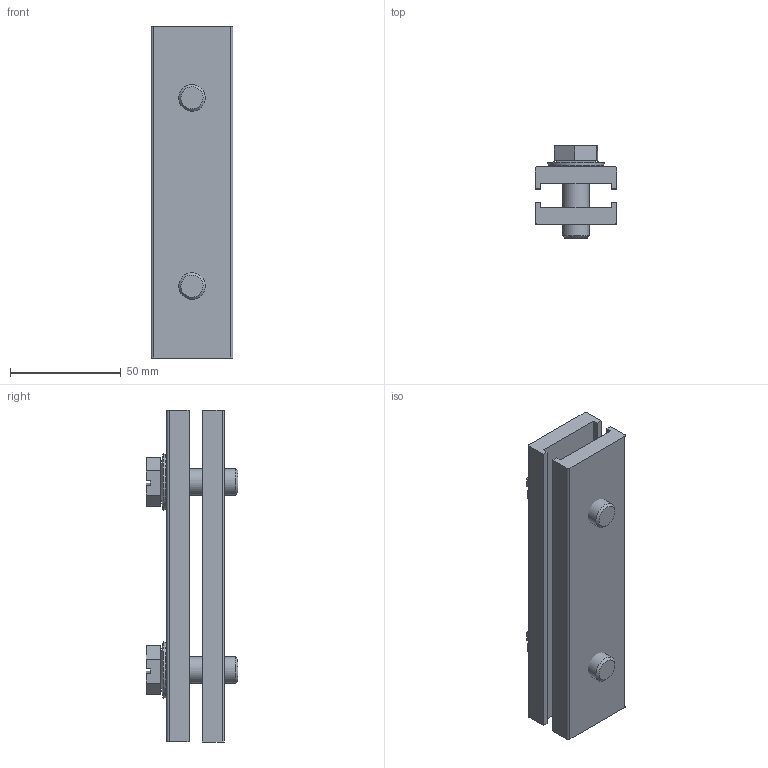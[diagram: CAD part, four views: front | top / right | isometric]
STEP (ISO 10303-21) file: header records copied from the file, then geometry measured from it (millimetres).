
FILE_DESCRIPTION (( 'STEP AP203' ), '1' );
FILE_NAME ('54886.STEP', '2021-08-16T02:16:13', ( '' ), ( '' ), 'SwSTEP 2.0', 'SolidWorks 2017', '' );
FILE_SCHEMA (( 'CONFIG_CONTROL_DESIGN' ));
Length unit declared in the file: millimetre
Products named in the file (2): 54886
Bounding box: 37 x 41.5 x 150 mm (x, y, z)
Volume: 96787.4 mm3; surface area: 37545.6 mm2
Topology: 6 solids, 6 shells, 68 faces, 168 edges, 112 vertices
Faces by surface type: plane 48, cylinder 10, cone 10
Full cylindrical faces by diameter (mm): 10.106 x2, 12 x2, 12.5 x2
Entity records: 2021 total; most frequent: CARTESIAN_POINT 318, DIRECTION 316, ORIENTED_EDGE 288, EDGE_CURVE 144, LINE 112, VECTOR 112, VERTEX_POINT 104, AXIS2_PLACEMENT_3D 102
